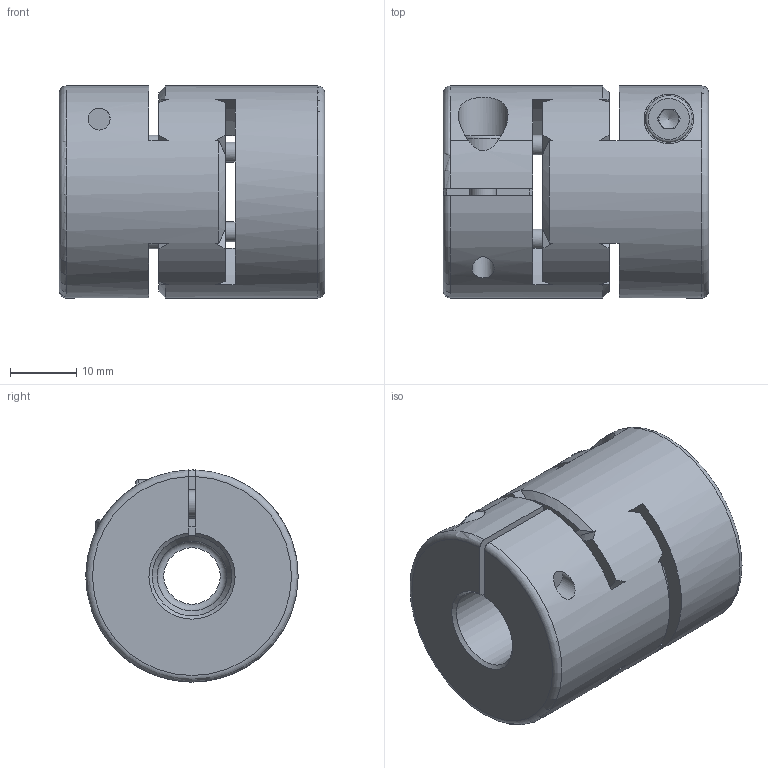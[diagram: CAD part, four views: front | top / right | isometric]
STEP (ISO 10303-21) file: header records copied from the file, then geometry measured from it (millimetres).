
FILE_DESCRIPTION(/* description */ ('Unknown','CAx-IF Rec.Pracs.---Representation and Presentation of Product Manufacturing Information (PMI)---4.0---2014-10-13','CAx-IF Rec.Pracs.---3D Tessellated Geometry---0.4---2014-09-14','2;1'),/* implementation_level */ '2;1');
FILE_NAME(/* name */ 'EKM - VA 6',/* time_stamp */ '2023-05-26T10:19:50+02:00',/* author */ ('Unknown'),/* organization */ ('Unknown'),/* preprocessor_version */ 'ST-DEVELOPER v18.102',/* originating_system */ 'Solid Edge',/* authorisation */ 'Unknown');
FILE_SCHEMA (('AP242_MANAGED_MODEL_BASED_3D_ENGINEERING_MIM_LF { 1 0 10303 442 1 1 4 }'));
Length unit declared in the file: millimetre
Products named in the file (1): mb-00724479
Bounding box: 40 x 32 x 32 mm (x, y, z)
Volume: 25302.2 mm3; surface area: 10467.6 mm2
Topology: 1 solids, 1 shells, 146 faces, 415 edges, 267 vertices
Faces by surface type: cylinder 54, plane 46, cone 40, torus 6
Full cylindrical faces by diameter (mm): 3 x4, 3.3 x2, 4 x2, 4.3 x2, 7 x2, 7.5 x2, 8.5 x1, 10.5 x2, 32 x1
Entity records: 5773 total; most frequent: CARTESIAN_POINT 1227, ORIENTED_EDGE 728, DIRECTION 716, EDGE_CURVE 364, AXIS2_PLACEMENT_3D 302, VERTEX_POINT 248, FACE_BOUND 196, EDGE_LOOP 194
